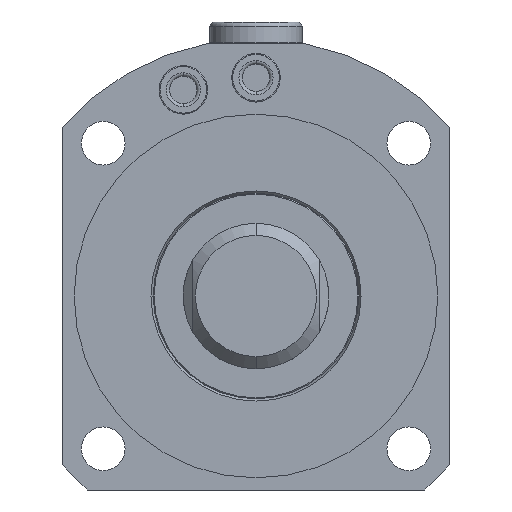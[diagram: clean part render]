
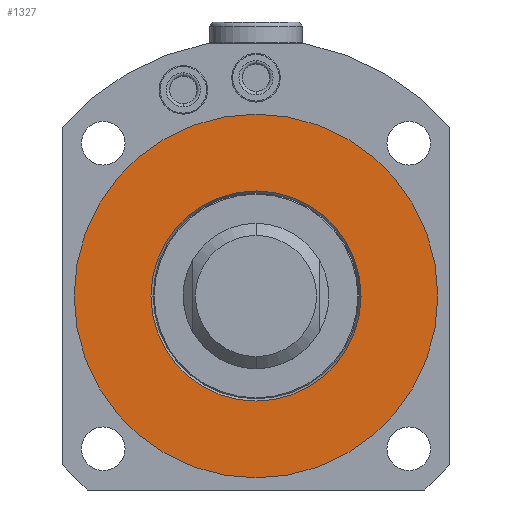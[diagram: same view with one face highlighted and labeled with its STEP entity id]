
A CAD part, front view. The second image highlights one B-rep face of the part: STEP entity #1327.
In plain terms, the highlighted planar face has unit normal (0, -1, 0).
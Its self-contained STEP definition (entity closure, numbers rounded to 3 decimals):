
#1012=FACE_BOUND('',#1827,.T.);
#1013=FACE_BOUND('',#1828,.T.);
#1078=PLANE('',#4512);
#1327=ADVANCED_FACE('',(#1012,#1013),#1078,.T.);
#1827=EDGE_LOOP('',(#2944,#2945));
#1828=EDGE_LOOP('',(#2946,#2947));
#2944=ORIENTED_EDGE('',*,*,#3756,.T.);
#2945=ORIENTED_EDGE('',*,*,#3867,.T.);
#2946=ORIENTED_EDGE('',*,*,#3750,.F.);
#2947=ORIENTED_EDGE('',*,*,#3868,.F.);
#3382=VERTEX_POINT('',#6444);
#3383=VERTEX_POINT('',#6445);
#3388=VERTEX_POINT('',#6456);
#3389=VERTEX_POINT('',#6458);
#3750=EDGE_CURVE('',#3382,#3383,#4067,.T.);
#3756=EDGE_CURVE('',#3389,#3388,#4070,.T.);
#3867=EDGE_CURVE('',#3388,#3389,#4121,.T.);
#3868=EDGE_CURVE('',#3383,#3382,#4122,.T.);
#4067=CIRCLE('',#4418,37.5);
#4070=CIRCLE('',#4422,21.662);
#4121=CIRCLE('',#4509,21.662);
#4122=CIRCLE('',#4511,37.5);
#4418=AXIS2_PLACEMENT_3D('',#6443,#5246,#5247);
#4422=AXIS2_PLACEMENT_3D('',#6457,#5257,#5258);
#4509=AXIS2_PLACEMENT_3D('',#6801,#5472,#5473);
#4511=AXIS2_PLACEMENT_3D('',#6803,#5476,#5477);
#4512=AXIS2_PLACEMENT_3D('',#6804,#5478,#5479);
#5246=DIRECTION('',(0.,1.,0.));
#5247=DIRECTION('',(-1.,0.,0.));
#5257=DIRECTION('',(0.,1.,0.));
#5258=DIRECTION('',(-1.,0.,0.));
#5472=DIRECTION('',(0.,1.,0.));
#5473=DIRECTION('',(-1.,0.,0.));
#5476=DIRECTION('',(0.,1.,0.));
#5477=DIRECTION('',(-1.,0.,0.));
#5478=DIRECTION('',(0.,-1.,0.));
#5479=DIRECTION('',(-1.,0.,0.));
#6443=CARTESIAN_POINT('',(0.,-107.,0.));
#6444=CARTESIAN_POINT('',(-37.5,-107.,0.));
#6445=CARTESIAN_POINT('',(37.5,-107.,0.));
#6456=CARTESIAN_POINT('',(-21.662,-107.,0.));
#6457=CARTESIAN_POINT('',(0.,-107.,0.));
#6458=CARTESIAN_POINT('',(21.662,-107.,0.));
#6801=CARTESIAN_POINT('',(0.,-107.,0.));
#6803=CARTESIAN_POINT('',(0.,-107.,0.));
#6804=CARTESIAN_POINT('',(-21.662,-107.,0.));
